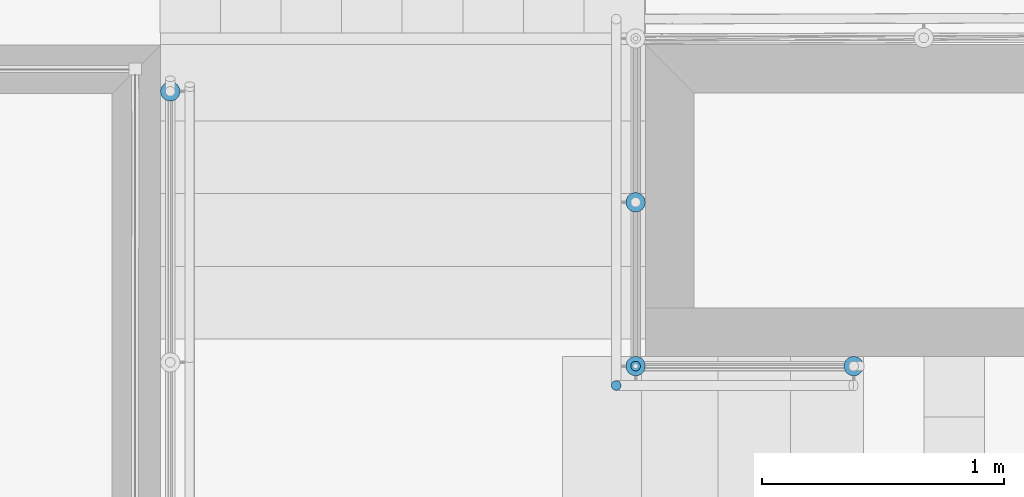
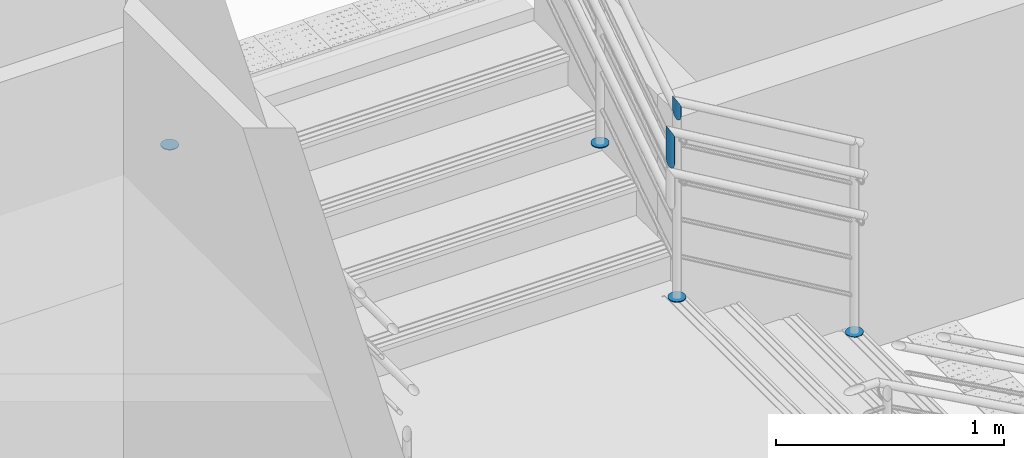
# One storey, part 124 of 237: 6 building element parts, 2 elements without a shape of their own.
"""IFC2X3 building model written with IfcOpenShell, lengths in millimetres."""

from ifc_helpers import new_model, entity, si_unit, converted_unit, derived_unit, money_unit, direction, frame, origin_with_axes, place, context, subcontext, project, spatial, faceted_brep, material, type_object, element, aggregate, save


model = new_model("IFC2X3")

# Units and contexts
model_context = context("Model", 3, precision=0.01, world=origin_with_axes(), true_north=direction((0.0, 1.0)))
body_context = subcontext(model_context, "Body", "Model", "MODEL_VIEW")
ifc_project = project(units=[si_unit("LENGTHUNIT", "METRE", prefix="MILLI"), si_unit("AREAUNIT", "SQUARE_METRE"), si_unit("VOLUMEUNIT", "CUBIC_METRE"), converted_unit("PLANEANGLEUNIT", "DEGREE", entity("IfcPlaneAngleMeasure", 0.0174532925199), si_unit("PLANEANGLEUNIT", "RADIAN"), dimensions=[0, 0, 0, 0, 0, 0, 0]), money_unit("USD"), converted_unit("TIMEUNIT", "Year", entity("IfcTimeMeasure", 31556926.0), si_unit("TIMEUNIT", "SECOND"), dimensions=[0, 0, 1, 0, 0, 0, 0]), si_unit("MASSUNIT", "GRAM", prefix="KILO"), si_unit("THERMODYNAMICTEMPERATUREUNIT", "DEGREE_CELSIUS"), si_unit("LUMINOUSINTENSITYUNIT", "LUMEN"), si_unit("ENERGYUNIT", "JOULE", prefix="MEGA"), derived_unit("THERMALCONDUCTANCEUNIT", [(si_unit("POWERUNIT", "WATT"), 1), (si_unit("LENGTHUNIT", "METRE"), -1), (si_unit("THERMODYNAMICTEMPERATUREUNIT", "KELVIN"), -1)]), derived_unit("SPECIFICHEATCAPACITYUNIT", [(si_unit("ENERGYUNIT", "JOULE"), 1), (si_unit("MASSUNIT", "GRAM", prefix="KILO"), -1), (si_unit("THERMODYNAMICTEMPERATUREUNIT", "KELVIN"), -1)]), derived_unit("MASSDENSITYUNIT", [(si_unit("MASSUNIT", "GRAM", prefix="KILO"), 1), (si_unit("VOLUMEUNIT", "CUBIC_METRE"), -1)])], contexts=[model_context])

# Site, building, storey
site_placement = place(None, origin_with_axes())
site = spatial("IfcSite", under=ifc_project, at=site_placement, Name="Local", CompositionType="ELEMENT")
building_placement = place(site_placement, origin_with_axes())
building = spatial("IfcBuilding", under=site, at=building_placement, Name="Construção", CompositionType="ELEMENT")
storey_placement = place(building_placement, origin_with_axes())
storey = spatial("IfcBuildingStorey", under=building, at=storey_placement, Name="Pavimento Térreo", CompositionType="ELEMENT", Elevation=0.0)

# Railing, building element part
railing_type = type_object("IfcRailingType", Name="Tipo de Guarda-Corpo", PredefinedType="NOTDEFINED")
railing_1_placement = place(storey_placement, frame((77071.0413397, 23732.4143775, -4865.39060156), z_axis=(0.0, 0.0, 1.0), x_axis=(1.0, 0.0, 0.0)))
railing_1 = element("IfcRailing", 1, at=railing_1_placement, inside=storey, type_object=railing_type, Name="Guarda-Corpo - 001", PredefinedType="NOTDEFINED")
ifc_material_1 = material(Name="Alumínio")
building_element_part_1_placement = place(railing_1_placement, origin_with_axes())
building_element_part_1 = element("IfcBuildingElementPart", 2, at=building_element_part_1_placement, material=ifc_material_1, Name="Alumínio", context=body_context, shape_type="Brep", body=[
    faceted_brep([(1737.91815812, -306.638304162, 1326.15703693), (1744.86408523, -306.030614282, 1326.15703693), (1744.86408523, -306.030614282, 1331.15703693), (1737.91815812, -306.638304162, 1331.15703693), (1730.97223102, -306.030614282, 1326.15703693), (1724.23735239, -304.226008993, 1326.15703693), (1717.91815812, -301.279320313, 1326.15703693), (1712.20665374, -297.280081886, 1326.15703693), (1707.2763804, -292.349808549, 1326.15703693), (1703.27714197, -286.638304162, 1326.15703693), (1700.33045329, -280.319109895, 1326.15703693), (1698.525848, -273.584231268, 1326.15703693), (1697.91815812, -266.638304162, 1326.15703693), (1698.525848, -259.692377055, 1326.15703693), (1700.33045329, -252.957498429, 1326.15703693), (1703.27714197, -246.638304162, 1326.15703693), (1707.2763804, -240.926799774, 1326.15703693), (1712.20665374, -235.996526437, 1326.15703693), (1717.91815812, -231.99728801, 1326.15703693), (1724.23735239, -229.05059933, 1326.15703693), (1730.97223102, -227.245994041, 1326.15703693), (1737.91815812, -226.638304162, 1326.15703693), (1744.86408523, -227.245994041, 1326.15703693), (1751.59896386, -229.05059933, 1326.15703693), (1757.91815812, -231.99728801, 1326.15703693), (1763.62966251, -235.996526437, 1326.15703693), (1768.55993585, -240.926799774, 1326.15703693), (1772.55917428, -246.638304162, 1326.15703693), (1775.50586296, -252.957498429, 1326.15703693), (1777.31046825, -259.692377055, 1326.15703693), (1777.91815812, -266.638304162, 1326.15703693), (1777.31046825, -273.584231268, 1326.15703693), (1775.50586296, -280.319109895, 1326.15703693), (1772.55917428, -286.638304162, 1326.15703693), (1768.55993585, -292.349808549, 1326.15703693), (1763.62966251, -297.280081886, 1326.15703693), (1757.91815812, -301.279320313, 1326.15703693), (1751.59896386, -304.226008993, 1326.15703693), (1751.59896386, -304.226008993, 1331.15703693), (1757.91815812, -301.279320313, 1331.15703693), (1763.62966251, -297.280081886, 1331.15703693), (1768.55993585, -292.349808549, 1331.15703693), (1772.55917428, -286.638304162, 1331.15703693), (1775.50586296, -280.319109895, 1331.15703693), (1777.31046825, -273.584231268, 1331.15703693), (1777.91815812, -266.638304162, 1331.15703693), (1777.31046825, -259.692377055, 1331.15703693), (1775.50586296, -252.957498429, 1331.15703693), (1772.55917428, -246.638304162, 1331.15703693), (1768.55993585, -240.926799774, 1331.15703693), (1763.62966251, -235.996526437, 1331.15703693), (1757.91815812, -231.99728801, 1331.15703693), (1751.59896386, -229.05059933, 1331.15703693), (1744.86408523, -227.245994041, 1331.15703693), (1737.91815812, -226.638304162, 1331.15703693), (1730.97223102, -227.245994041, 1331.15703693), (1724.23735239, -229.05059933, 1331.15703693), (1717.91815812, -231.99728801, 1331.15703693), (1712.20665374, -235.996526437, 1331.15703693), (1707.2763804, -240.926799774, 1331.15703693), (1703.27714197, -246.638304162, 1331.15703693), (1700.33045329, -252.957498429, 1331.15703693), (1698.525848, -259.692377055, 1331.15703693), (1697.91815812, -266.638304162, 1331.15703693), (1698.525848, -273.584231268, 1331.15703693), (1700.33045329, -280.319109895, 1331.15703693), (1703.27714197, -286.638304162, 1331.15703693), (1707.2763804, -292.349808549, 1331.15703693), (1712.20665374, -297.280081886, 1331.15703693), (1717.91815812, -301.279320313, 1331.15703693), (1724.23735239, -304.226008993, 1331.15703693), (1730.97223102, -306.030614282, 1331.15703693)], [[[0, 1, 2, 3]], [[0, 4, 5, 6, 7, 8, 9, 10, 11, 12, 13, 14, 15, 16, 17, 18, 19, 20, 21, 22, 23, 24, 25, 26, 27, 28, 29, 30, 31, 32, 33, 34, 35, 36, 37, 1]], [[1, 37, 38, 2]], [[3, 2, 38, 39, 40, 41, 42, 43, 44, 45, 46, 47, 48, 49, 50, 51, 52, 53, 54, 55, 56, 57, 58, 59, 60, 61, 62, 63, 64, 65, 66, 67, 68, 69, 70, 71]], [[4, 0, 3, 71]], [[5, 4, 71, 70]], [[6, 5, 70, 69]], [[7, 6, 69, 68]], [[8, 7, 68, 67]], [[9, 8, 67, 66]], [[10, 9, 66, 65]], [[11, 10, 65, 64]], [[12, 11, 64, 63]], [[13, 12, 63, 62]], [[14, 13, 62, 61]], [[15, 14, 61, 60]], [[16, 15, 60, 59]], [[17, 16, 59, 58]], [[18, 17, 58, 57]], [[19, 18, 57, 56]], [[20, 19, 56, 55]], [[21, 20, 55, 54]], [[22, 21, 54, 53]], [[23, 22, 53, 52]], [[24, 23, 52, 51]], [[25, 24, 51, 50]], [[26, 25, 50, 49]], [[27, 26, 49, 48]], [[28, 27, 48, 47]], [[29, 28, 47, 46]], [[30, 29, 46, 45]], [[31, 30, 45, 44]], [[32, 31, 44, 43]], [[33, 32, 43, 42]], [[34, 33, 42, 41]], [[35, 34, 41, 40]], [[36, 35, 40, 39]], [[37, 36, 39, 38]]]),
])
aggregate(railing_1, [building_element_part_1])

# Railing, building element parts
railing_2_placement = place(storey_placement, frame((84562.8908804, 21657.2175927, -4868.39227091), z_axis=(0.0, 0.0, 1.0), x_axis=(1.0, 0.0, 0.0)))
railing_2 = element("IfcRailing", 3, at=railing_2_placement, inside=storey, type_object=railing_type, Name="Guarda-Corpo - 002", PredefinedType="NOTDEFINED")
building_element_part_2_placement = place(railing_2_placement, origin_with_axes())
building_element_part_2 = element("IfcBuildingElementPart", 4, at=building_element_part_2_placement, material=ifc_material_1, Name="Alumínio", context=body_context, shape_type="Brep", body=[
    faceted_brep([(-2973.93138467, 675.201517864, 23.46674086), (-2973.32369479, 668.255590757, 23.46674086), (-2973.32369479, 668.255590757, 28.46674086), (-2973.93138467, 675.201517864, 28.46674086), (-2973.32369479, 682.147444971, 23.46674086), (-2971.5190895, 688.882323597, 23.46674086), (-2968.57240082, 695.201517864, 23.46674086), (-2964.5731624, 700.913022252, 23.46674086), (-2959.64288906, 705.843295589, 23.46674086), (-2953.93138467, 709.842534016, 23.46674086), (-2947.6121904, 712.789222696, 23.46674086), (-2940.87731178, 714.593827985, 23.46674086), (-2933.93138467, 715.201517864, 23.46674086), (-2926.98545757, 714.593827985, 23.46674086), (-2920.25057894, 712.789222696, 23.46674086), (-2913.93138467, 709.842534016, 23.46674086), (-2908.21988028, 705.843295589, 23.46674086), (-2903.28960695, 700.913022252, 23.46674086), (-2899.29036852, 695.201517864, 23.46674086), (-2896.34367984, 688.882323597, 23.46674086), (-2894.53907455, 682.147444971, 23.46674086), (-2893.93138467, 675.201517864, 23.46674086), (-2894.53907455, 668.255590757, 23.46674086), (-2896.34367984, 661.520712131, 23.46674086), (-2899.29036852, 655.201517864, 23.46674086), (-2903.28960695, 649.490013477, 23.46674086), (-2908.21988028, 644.559740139, 23.46674086), (-2913.93138467, 640.560501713, 23.46674086), (-2920.25057894, 637.613813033, 23.46674086), (-2926.98545757, 635.809207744, 23.46674086), (-2933.93138467, 635.201517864, 23.46674086), (-2940.87731178, 635.809207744, 23.46674086), (-2947.6121904, 637.613813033, 23.46674086), (-2953.93138467, 640.560501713, 23.46674086), (-2959.64288906, 644.559740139, 23.46674086), (-2964.5731624, 649.490013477, 23.46674086), (-2968.57240082, 655.201517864, 23.46674086), (-2971.5190895, 661.520712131, 23.46674086), (-2971.5190895, 661.520712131, 28.46674086), (-2968.57240082, 655.201517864, 28.46674086), (-2964.5731624, 649.490013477, 28.46674086), (-2959.64288906, 644.559740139, 28.46674086), (-2953.93138467, 640.560501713, 28.46674086), (-2947.6121904, 637.613813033, 28.46674086), (-2940.87731178, 635.809207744, 28.46674086), (-2933.93138467, 635.201517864, 28.46674086), (-2926.98545757, 635.809207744, 28.46674086), (-2920.25057894, 637.613813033, 28.46674086), (-2913.93138467, 640.560501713, 28.46674086), (-2908.21988028, 644.559740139, 28.46674086), (-2903.28960695, 649.490013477, 28.46674086), (-2899.29036852, 655.201517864, 28.46674086), (-2896.34367984, 661.520712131, 28.46674086), (-2894.53907455, 668.255590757, 28.46674086), (-2893.93138467, 675.201517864, 28.46674086), (-2894.53907455, 682.147444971, 28.46674086), (-2896.34367984, 688.882323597, 28.46674086), (-2899.29036852, 695.201517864, 28.46674086), (-2903.28960695, 700.913022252, 28.46674086), (-2908.21988028, 705.843295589, 28.46674086), (-2913.93138467, 709.842534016, 28.46674086), (-2920.25057894, 712.789222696, 28.46674086), (-2926.98545757, 714.593827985, 28.46674086), (-2933.93138467, 715.201517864, 28.46674086), (-2940.87731178, 714.593827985, 28.46674086), (-2947.6121904, 712.789222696, 28.46674086), (-2953.93138467, 709.842534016, 28.46674086), (-2959.64288906, 705.843295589, 28.46674086), (-2964.5731624, 700.913022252, 28.46674086), (-2968.57240082, 695.201517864, 28.46674086), (-2971.5190895, 688.882323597, 28.46674086), (-2973.32369479, 682.147444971, 28.46674086)], [[[0, 1, 2, 3]], [[0, 4, 5, 6, 7, 8, 9, 10, 11, 12, 13, 14, 15, 16, 17, 18, 19, 20, 21, 22, 23, 24, 25, 26, 27, 28, 29, 30, 31, 32, 33, 34, 35, 36, 37, 1]], [[1, 37, 38, 2]], [[3, 2, 38, 39, 40, 41, 42, 43, 44, 45, 46, 47, 48, 49, 50, 51, 52, 53, 54, 55, 56, 57, 58, 59, 60, 61, 62, 63, 64, 65, 66, 67, 68, 69, 70, 71]], [[4, 0, 3, 71]], [[5, 4, 71, 70]], [[6, 5, 70, 69]], [[7, 6, 69, 68]], [[8, 7, 68, 67]], [[9, 8, 67, 66]], [[10, 9, 66, 65]], [[11, 10, 65, 64]], [[12, 11, 64, 63]], [[13, 12, 63, 62]], [[14, 13, 62, 61]], [[15, 14, 61, 60]], [[16, 15, 60, 59]], [[17, 16, 59, 58]], [[18, 17, 58, 57]], [[19, 18, 57, 56]], [[20, 19, 56, 55]], [[21, 20, 55, 54]], [[22, 21, 54, 53]], [[23, 22, 53, 52]], [[24, 23, 52, 51]], [[25, 24, 51, 50]], [[26, 25, 50, 49]], [[27, 26, 49, 48]], [[28, 27, 48, 47]], [[29, 28, 47, 46]], [[30, 29, 46, 45]], [[31, 30, 45, 44]], [[32, 31, 44, 43]], [[33, 32, 43, 42]], [[34, 33, 42, 41]], [[35, 34, 41, 40]], [[36, 35, 40, 39]], [[37, 36, 39, 38]]]),
])
building_element_part_3_placement = place(railing_2_placement, origin_with_axes())
building_element_part_3 = element("IfcBuildingElementPart", 5, at=building_element_part_3_placement, material=ifc_material_1, Name="Alumínio", context=body_context, shape_type="Brep", body=[
    faceted_brep([(-3873.93138467, 675.201671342, 526.629885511), (-3873.32369479, 668.255744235, 526.629885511), (-3873.32369479, 668.255744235, 531.629885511), (-3873.93138467, 675.201671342, 531.629885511), (-3873.32369479, 682.147598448, 526.629885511), (-3871.5190895, 688.882477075, 526.629885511), (-3868.57240082, 695.201671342, 526.629885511), (-3864.5731624, 700.913175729, 526.629885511), (-3859.64288906, 705.843449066, 526.629885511), (-3853.93138467, 709.842687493, 526.629885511), (-3847.6121904, 712.789376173, 526.629885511), (-3840.87731178, 714.593981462, 526.629885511), (-3833.93138467, 715.201671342, 526.629885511), (-3826.98545757, 714.593981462, 526.629885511), (-3820.25057894, 712.789376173, 526.629885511), (-3813.93138467, 709.842687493, 526.629885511), (-3808.21988028, 705.843449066, 526.629885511), (-3803.28960695, 700.913175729, 526.629885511), (-3799.29036852, 695.201671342, 526.629885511), (-3796.34367984, 688.882477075, 526.629885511), (-3794.53907455, 682.147598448, 526.629885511), (-3793.93138467, 675.201671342, 526.629885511), (-3794.53907455, 668.255744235, 526.629885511), (-3796.34367984, 661.520865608, 526.629885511), (-3799.29036852, 655.201671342, 526.629885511), (-3803.28960695, 649.490166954, 526.629885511), (-3808.21988028, 644.559893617, 526.629885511), (-3813.93138467, 640.56065519, 526.629885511), (-3820.25057894, 637.61396651, 526.629885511), (-3826.98545757, 635.809361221, 526.629885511), (-3833.93138467, 635.201671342, 526.629885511), (-3840.87731178, 635.809361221, 526.629885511), (-3847.6121904, 637.61396651, 526.629885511), (-3853.93138467, 640.56065519, 526.629885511), (-3859.64288906, 644.559893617, 526.629885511), (-3864.5731624, 649.490166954, 526.629885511), (-3868.57240082, 655.201671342, 526.629885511), (-3871.5190895, 661.520865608, 526.629885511), (-3871.5190895, 661.520865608, 531.629885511), (-3868.57240082, 655.201671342, 531.629885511), (-3864.5731624, 649.490166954, 531.629885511), (-3859.64288906, 644.559893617, 531.629885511), (-3853.93138467, 640.56065519, 531.629885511), (-3847.6121904, 637.61396651, 531.629885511), (-3840.87731178, 635.809361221, 531.629885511), (-3833.93138467, 635.201671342, 531.629885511), (-3826.98545757, 635.809361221, 531.629885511), (-3820.25057894, 637.61396651, 531.629885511), (-3813.93138467, 640.56065519, 531.629885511), (-3808.21988028, 644.559893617, 531.629885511), (-3803.28960695, 649.490166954, 531.629885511), (-3799.29036852, 655.201671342, 531.629885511), (-3796.34367984, 661.520865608, 531.629885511), (-3794.53907455, 668.255744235, 531.629885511), (-3793.93138467, 675.201671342, 531.629885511), (-3794.53907455, 682.147598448, 531.629885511), (-3796.34367984, 688.882477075, 531.629885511), (-3799.29036852, 695.201671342, 531.629885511), (-3803.28960695, 700.913175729, 531.629885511), (-3808.21988028, 705.843449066, 531.629885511), (-3813.93138467, 709.842687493, 531.629885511), (-3820.25057894, 712.789376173, 531.629885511), (-3826.98545757, 714.593981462, 531.629885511), (-3833.93138467, 715.201671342, 531.629885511), (-3840.87731178, 714.593981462, 531.629885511), (-3847.6121904, 712.789376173, 531.629885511), (-3853.93138467, 709.842687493, 531.629885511), (-3859.64288906, 705.843449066, 531.629885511), (-3864.5731624, 700.913175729, 531.629885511), (-3868.57240082, 695.201671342, 531.629885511), (-3871.5190895, 688.882477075, 531.629885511), (-3873.32369479, 682.147598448, 531.629885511)], [[[0, 1, 2, 3]], [[0, 4, 5, 6, 7, 8, 9, 10, 11, 12, 13, 14, 15, 16, 17, 18, 19, 20, 21, 22, 23, 24, 25, 26, 27, 28, 29, 30, 31, 32, 33, 34, 35, 36, 37, 1]], [[1, 37, 38, 2]], [[3, 2, 38, 39, 40, 41, 42, 43, 44, 45, 46, 47, 48, 49, 50, 51, 52, 53, 54, 55, 56, 57, 58, 59, 60, 61, 62, 63, 64, 65, 66, 67, 68, 69, 70, 71]], [[4, 0, 3, 71]], [[5, 4, 71, 70]], [[6, 5, 70, 69]], [[7, 6, 69, 68]], [[8, 7, 68, 67]], [[9, 8, 67, 66]], [[10, 9, 66, 65]], [[11, 10, 65, 64]], [[12, 11, 64, 63]], [[13, 12, 63, 62]], [[14, 13, 62, 61]], [[15, 14, 61, 60]], [[16, 15, 60, 59]], [[17, 16, 59, 58]], [[18, 17, 58, 57]], [[19, 18, 57, 56]], [[20, 19, 56, 55]], [[21, 20, 55, 54]], [[22, 21, 54, 53]], [[23, 22, 53, 52]], [[24, 23, 52, 51]], [[25, 24, 51, 50]], [[26, 25, 50, 49]], [[27, 26, 49, 48]], [[28, 27, 48, 47]], [[29, 28, 47, 46]], [[30, 29, 46, 45]], [[31, 30, 45, 44]], [[32, 31, 44, 43]], [[33, 32, 43, 42]], [[34, 33, 42, 41]], [[35, 34, 41, 40]], [[36, 35, 40, 39]], [[37, 36, 39, 38]]]),
])
ifc_material_2 = material(Name="Aço - Inoxidável")
building_element_part_4_placement = place(railing_2_placement, origin_with_axes())
building_element_part_4 = element("IfcBuildingElementPart", 6, at=building_element_part_4_placement, material=ifc_material_2, Name="Aço - Inoxidável", context=body_context, shape_type="Brep", body=[
    faceted_brep([(-3910.45830725, 614.898168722, 1381.91366874), (-3913.93126905, 615.202048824, 1382.476101), (-3913.93126905, 615.201402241, 1495.21413694), (-3910.45830725, 614.897537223, 1489.15014715), (-3917.40423436, 614.898244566, 1381.91380912), (-3907.09087316, 613.995837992, 1380.24360246), (-3903.93128454, 612.522474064, 1377.51664732), (-3901.07554391, 610.522844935, 1373.81566155), (-3898.61042149, 608.057708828, 1369.25309866), (-3896.61081879, 605.201968, 1363.96759045), (-3895.13749271, 602.042392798, 1358.11973462), (-3894.23520954, 598.674985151, 1351.887215), (-3893.93138467, 595.202061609, 1345.45940275), (-3894.23524969, 591.729144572, 1339.03160254), (-3895.1375718, 588.361756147, 1332.7991185), (-3896.61093441, 585.202212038, 1326.95132021), (-3898.61057013, 582.346512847, 1321.66588907), (-3901.07572105, 579.881427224, 1317.10341962), (-3903.93148481, 577.881855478, 1313.40254006), (-3907.09109046, 576.408553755, 1310.67570005), (-3910.45853499, 575.506287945, 1309.00575392), (-3913.9315003, 575.202473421, 1308.44344303), (-3917.40446209, 575.506341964, 1309.0058539), (-3920.77189619, 576.408661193, 1310.6758989), (-3923.9314848, 577.882015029, 1313.40283536), (-3926.78722544, 579.881636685, 1317.1038073), (-3929.25234786, 582.346768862, 1321.66636291), (-3931.25195056, 585.202509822, 1326.95187136), (-3932.72527663, 588.362089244, 1332.799735), (-3933.62755981, 591.729504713, 1339.03226911), (-3933.93138467, 595.202438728, 1345.46010074), (-3933.62751965, 598.675367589, 1351.88792283), (-3932.72519754, 602.042767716, 1358.12042853), (-3931.25183494, 605.202321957, 1363.96824557), (-3929.25219921, 608.058028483, 1369.25369029), (-3926.78704829, 610.523117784, 1373.81616654), (-3923.93128454, 612.522689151, 1377.51704541), (-3920.77167889, 613.995986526, 1380.24387737), (-3917.40423436, 614.897577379, 1501.27812673), (-3923.93148481, 577.880951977, 1512.67469965), (-3920.77189619, 576.407589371, 1507.15786526), (-3917.40446209, 575.505267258, 1501.27812673), (-3913.9315003, 575.201402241, 1495.21413694), (-3910.45853499, 575.505227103, 1489.15014715), (-3907.09109046, 576.40751028, 1483.27040862), (-3903.93148481, 577.880836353, 1477.75357423), (-3901.07572105, 579.880439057, 1472.7672702), (-3898.61057013, 582.345561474, 1468.46300286), (-3896.61093441, 585.201302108, 1464.97155519), (-3895.13757181, 588.360890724, 1462.39901307), (-3894.23524969, 591.728324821, 1460.82354188), (-3893.93138468, 595.201286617, 1460.29301152), (-3894.23520954, 598.674251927, 1460.82354188), (-3895.13749271, 602.041696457, 1462.39901307), (-3896.61081879, 605.201302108, 1464.97155519), (-3898.61042149, 608.057065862, 1468.46300286), (-3901.07554391, 610.522216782, 1472.7672702), (-3903.93128454, 612.521852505, 1477.75357423), (-3907.09087316, 613.995215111, 1483.27040862), (-3920.77167889, 613.995294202, 1507.15786526), (-3923.93128454, 612.521968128, 1512.67469965), (-3926.78704829, 610.522365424, 1517.66100368), (-3929.25219921, 608.057243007, 1521.96527102), (-3931.25183494, 605.201502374, 1525.45671868), (-3932.72519754, 602.041913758, 1528.02926081), (-3933.62751965, 598.674479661, 1529.604732), (-3933.93138467, 595.201517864, 1530.13526236), (-3933.62755981, 591.728552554, 1529.604732), (-3932.72527663, 588.361108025, 1528.02926081), (-3931.25195056, 585.201502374, 1525.45671868), (-3929.25234786, 582.34573862, 1521.96527102), (-3926.78722544, 579.8805877, 1517.66100368)], [[[0, 1, 2, 3]], [[4, 1, 0, 5, 6, 7, 8, 9, 10, 11, 12, 13, 14, 15, 16, 17, 18, 19, 20, 21, 22, 23, 24, 25, 26, 27, 28, 29, 30, 31, 32, 33, 34, 35, 36, 37]], [[1, 4, 38, 2]], [[39, 40, 41, 42, 43, 44, 45, 46, 47, 48, 49, 50, 51, 52, 53, 54, 55, 56, 57, 58, 3, 2, 38, 59, 60, 61, 62, 63, 64, 65, 66, 67, 68, 69, 70, 71]], [[5, 0, 3, 58]], [[6, 5, 58, 57]], [[7, 6, 57, 56]], [[8, 7, 56, 55]], [[9, 8, 55, 54]], [[10, 9, 54, 53]], [[11, 10, 53, 52]], [[12, 11, 52, 51]], [[13, 12, 51, 50]], [[14, 13, 50, 49]], [[15, 14, 49, 48]], [[16, 15, 48, 47]], [[17, 16, 47, 46]], [[18, 17, 46, 45]], [[19, 18, 45, 44]], [[20, 19, 44, 43]], [[21, 20, 43, 42]], [[22, 21, 42, 41]], [[23, 22, 41, 40]], [[24, 23, 40, 39]], [[25, 24, 39, 71]], [[26, 25, 71, 70]], [[27, 26, 70, 69]], [[28, 27, 69, 68]], [[29, 28, 68, 67]], [[30, 29, 67, 66]], [[31, 30, 66, 65]], [[32, 31, 65, 64]], [[33, 32, 64, 63]], [[34, 33, 63, 62]], [[35, 34, 62, 61]], [[36, 35, 61, 60]], [[37, 36, 60, 59]], [[4, 37, 59, 38]]]),
])
building_element_part_5_placement = place(railing_2_placement, origin_with_axes())
building_element_part_5 = element("IfcBuildingElementPart", 7, at=building_element_part_5_placement, material=ifc_material_2, Name="Aço - Inoxidável", context=body_context, shape_type="Brep", body=[
    faceted_brep([(-3830.45833897, 694.897612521, 1564.33392983), (-3833.93130125, 695.201495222, 1564.89636597), (-3833.93130125, 695.201434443, 1578.28065522), (-3830.45833897, 694.897575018, 1572.21666543), (-3837.40426607, 694.8976909, 1564.3340749), (-3827.09090342, 693.99527665, 1562.66385681), (-3823.93131243, 692.521905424, 1559.93689269), (-3821.96898751, 691.14785391, 1557.39375277), (-3818.4501646, 687.828220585, 1551.24966579), (-3816.61083489, 685.201371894, 1546.38780749), (-3815.13750373, 682.041788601, 1540.53994639), (-3814.23521513, 678.674374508, 1534.30742518), (-3813.93138467, 675.201446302, 1527.87961498), (-3814.2352441, 671.728526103, 1521.45181959), (-3815.13756079, 668.361135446, 1515.21934176), (-3816.61091831, 665.201589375, 1509.37154955), (-3818.61054943, 662.345887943, 1504.08612304), (-3821.07569638, 659.880799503, 1499.52365595), (-3823.93145692, 657.88122435, 1495.82277623), (-3827.0910602, 656.407918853, 1493.09593376), (-3830.45850327, 655.505649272, 1491.42598342), (-3833.93146809, 655.201831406, 1490.86366728), (-3837.40443038, 655.505697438, 1491.42607257), (-3840.77186593, 656.408015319, 1493.0961123), (-3843.93145692, 657.881369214, 1495.82304435), (-3846.78720077, 659.880992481, 1499.52401312), (-3849.25232716, 662.34612787, 1504.0865671), (-3851.25193446, 665.201873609, 1509.37207562), (-3852.72526562, 668.361459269, 1515.2199411), (-3853.62755422, 671.728882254, 1521.45247876), (-3853.93138467, 675.201824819, 1527.88031555), (-3853.62752525, 678.674762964, 1534.30814415), (-3852.72520856, 682.042172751, 1540.54065739), (-3851.25185104, 685.201736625, 1546.38848254), (-3849.25221991, 688.057452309, 1551.67393543), (-3846.78707296, 690.52254982, 1556.23641931), (-3843.93131243, 692.522127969, 1559.93730458), (-3840.77170915, 693.995430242, 1562.66414108), (-3837.40426607, 694.897603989, 1584.34464501), (-3823.93131243, 692.521900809, 1560.82009251), (-3827.09090342, 693.995258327, 1566.3369269), (-3840.77170915, 693.995315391, 1590.22438354), (-3843.93131243, 692.521984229, 1595.74121793), (-3846.78707296, 690.522376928, 1600.72752196), (-3849.25221991, 688.057250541, 1605.0317893), (-3851.25185104, 685.201506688, 1608.52323696), (-3852.72520856, 682.0419157, 1611.09577909), (-3853.62752525, 678.67448015, 1612.67125028), (-3853.93138467, 675.201517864, 1613.20178064), (-3853.62755422, 671.728553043, 1612.67125028), (-3852.72526562, 668.361109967, 1611.09577909), (-3851.25193446, 665.201506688, 1608.52323696), (-3849.25232716, 662.345746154, 1605.0317893), (-3846.78720077, 659.880599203, 1600.72752196), (-3843.93145692, 657.880968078, 1595.74121793), (-3840.77186593, 656.407610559, 1590.22438354), (-3837.40443038, 655.505293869, 1584.34464501), (-3833.93146809, 655.201434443, 1578.28065522), (-3830.45850327, 655.505264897, 1572.21666543), (-3827.0910602, 656.407553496, 1566.3369269), (-3823.93145692, 657.880884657, 1560.82009251), (-3821.07569638, 659.880491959, 1555.83378848), (-3818.61054943, 662.345618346, 1551.52952114), (-3816.61091831, 665.201362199, 1548.03807347), (-3815.13756079, 668.360953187, 1545.46553135), (-3814.2352441, 671.728388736, 1543.89006016), (-3813.93138467, 675.201351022, 1543.3595298), (-3814.23521513, 678.674315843, 1543.89006016), (-3815.13750373, 682.04175892, 1545.46553135), (-3816.61083489, 685.201362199, 1548.03807347)], [[[0, 1, 2, 3]], [[4, 1, 0, 5, 6, 7, 8, 9, 10, 11, 12, 13, 14, 15, 16, 17, 18, 19, 20, 21, 22, 23, 24, 25, 26, 27, 28, 29, 30, 31, 32, 33, 34, 35, 36, 37]], [[1, 4, 38, 2]], [[8, 7, 39, 40, 3, 2, 38, 41, 42, 43, 44, 45, 46, 47, 48, 49, 50, 51, 52, 53, 54, 55, 56, 57, 58, 59, 60, 61, 62, 63, 64, 65, 66, 67, 68, 69]], [[5, 0, 3, 40]], [[6, 5, 40, 39]], [[7, 6, 39]], [[9, 8, 69]], [[10, 9, 69, 68]], [[11, 10, 68, 67]], [[12, 11, 67, 66]], [[13, 12, 66, 65]], [[14, 13, 65, 64]], [[15, 14, 64, 63]], [[16, 15, 63, 62]], [[17, 16, 62, 61]], [[18, 17, 61, 60]], [[19, 18, 60, 59]], [[20, 19, 59, 58]], [[21, 20, 58, 57]], [[22, 21, 57, 56]], [[23, 22, 56, 55]], [[24, 23, 55, 54]], [[25, 24, 54, 53]], [[26, 25, 53, 52]], [[27, 26, 52, 51]], [[28, 27, 51, 50]], [[29, 28, 50, 49]], [[30, 29, 49, 48]], [[31, 30, 48, 47]], [[32, 31, 47, 46]], [[33, 32, 46, 45]], [[34, 33, 45, 44]], [[35, 34, 44, 43]], [[36, 35, 43, 42]], [[37, 36, 42, 41]], [[4, 37, 41, 38]]]),
])
building_element_part_6_placement = place(railing_2_placement, origin_with_axes())
building_element_part_6 = element("IfcBuildingElementPart", 8, at=building_element_part_6_placement, material=ifc_material_1, Name="Alumínio", context=body_context, shape_type="Brep", body=[
    faceted_brep([(-3833.93138467, 1391.03531661, 944.63986772), (-3840.87731178, 1390.42762673, 944.63986772), (-3840.87731178, 1390.42762673, 949.63986772), (-3833.93138467, 1391.03531661, 949.63986772), (-3826.98545757, 1390.42762673, 944.63986772), (-3820.25057894, 1388.62302144, 944.63986772), (-3813.93138467, 1385.67633276, 944.63986772), (-3808.21988028, 1381.67709434, 944.63986772), (-3803.28960695, 1376.746821, 944.63986772), (-3799.29036852, 1371.03531661, 944.63986772), (-3796.34367984, 1364.71612235, 944.63986772), (-3794.53907455, 1357.98124372, 944.63986772), (-3793.93138467, 1351.03531661, 944.63986772), (-3794.53907455, 1344.08938951, 944.63986772), (-3796.34367984, 1337.35451088, 944.63986772), (-3799.29036852, 1331.03531661, 944.63986772), (-3803.28960695, 1325.32381223, 944.63986772), (-3808.21988028, 1320.39353889, 944.63986772), (-3813.93138467, 1316.39430046, 944.63986772), (-3820.25057894, 1313.44761178, 944.63986772), (-3826.98545757, 1311.64300649, 944.63986772), (-3833.93138467, 1311.03531661, 944.63986772), (-3840.87731178, 1311.64300649, 944.63986772), (-3847.6121904, 1313.44761178, 944.63986772), (-3853.93138467, 1316.39430046, 944.63986772), (-3859.64288906, 1320.39353889, 944.63986772), (-3864.5731624, 1325.32381223, 944.63986772), (-3868.57240082, 1331.03531661, 944.63986772), (-3871.5190895, 1337.35451088, 944.63986772), (-3873.32369479, 1344.08938951, 944.63986772), (-3873.93138467, 1351.03531661, 944.63986772), (-3873.32369479, 1357.98124372, 944.63986772), (-3871.5190895, 1364.71612235, 944.63986772), (-3868.57240082, 1371.03531661, 944.63986772), (-3864.5731624, 1376.746821, 944.63986772), (-3859.64288906, 1381.67709434, 944.63986772), (-3853.93138467, 1385.67633276, 944.63986772), (-3847.6121904, 1388.62302144, 944.63986772), (-3847.6121904, 1388.62302144, 949.63986772), (-3853.93138467, 1385.67633276, 949.63986772), (-3859.64288906, 1381.67709434, 949.63986772), (-3864.5731624, 1376.746821, 949.63986772), (-3868.57240082, 1371.03531661, 949.63986772), (-3871.5190895, 1364.71612235, 949.63986772), (-3873.32369479, 1357.98124372, 949.63986772), (-3873.93138467, 1351.03531661, 949.63986772), (-3873.32369479, 1344.08938951, 949.63986772), (-3871.5190895, 1337.35451088, 949.63986772), (-3868.57240082, 1331.03531661, 949.63986772), (-3864.5731624, 1325.32381223, 949.63986772), (-3859.64288906, 1320.39353889, 949.63986772), (-3853.93138467, 1316.39430046, 949.63986772), (-3847.6121904, 1313.44761178, 949.63986772), (-3840.87731178, 1311.64300649, 949.63986772), (-3833.93138467, 1311.03531661, 949.63986772), (-3826.98545757, 1311.64300649, 949.63986772), (-3820.25057894, 1313.44761178, 949.63986772), (-3813.93138467, 1316.39430046, 949.63986772), (-3808.21988028, 1320.39353889, 949.63986772), (-3803.28960695, 1325.32381223, 949.63986772), (-3799.29036852, 1331.03531661, 949.63986772), (-3796.34367984, 1337.35451088, 949.63986772), (-3794.53907455, 1344.08938951, 949.63986772), (-3793.93138467, 1351.03531661, 949.63986772), (-3794.53907455, 1357.98124372, 949.63986772), (-3796.34367984, 1364.71612235, 949.63986772), (-3799.29036852, 1371.03531661, 949.63986772), (-3803.28960695, 1376.746821, 949.63986772), (-3808.21988028, 1381.67709434, 949.63986772), (-3813.93138467, 1385.67633276, 949.63986772), (-3820.25057894, 1388.62302144, 949.63986772), (-3826.98545757, 1390.42762673, 949.63986772)], [[[0, 1, 2, 3]], [[0, 4, 5, 6, 7, 8, 9, 10, 11, 12, 13, 14, 15, 16, 17, 18, 19, 20, 21, 22, 23, 24, 25, 26, 27, 28, 29, 30, 31, 32, 33, 34, 35, 36, 37, 1]], [[1, 37, 38, 2]], [[3, 2, 38, 39, 40, 41, 42, 43, 44, 45, 46, 47, 48, 49, 50, 51, 52, 53, 54, 55, 56, 57, 58, 59, 60, 61, 62, 63, 64, 65, 66, 67, 68, 69, 70, 71]], [[4, 0, 3, 71]], [[5, 4, 71, 70]], [[6, 5, 70, 69]], [[7, 6, 69, 68]], [[8, 7, 68, 67]], [[9, 8, 67, 66]], [[10, 9, 66, 65]], [[11, 10, 65, 64]], [[12, 11, 64, 63]], [[13, 12, 63, 62]], [[14, 13, 62, 61]], [[15, 14, 61, 60]], [[16, 15, 60, 59]], [[17, 16, 59, 58]], [[18, 17, 58, 57]], [[19, 18, 57, 56]], [[20, 19, 56, 55]], [[21, 20, 55, 54]], [[22, 21, 54, 53]], [[23, 22, 53, 52]], [[24, 23, 52, 51]], [[25, 24, 51, 50]], [[26, 25, 50, 49]], [[27, 26, 49, 48]], [[28, 27, 48, 47]], [[29, 28, 47, 46]], [[30, 29, 46, 45]], [[31, 30, 45, 44]], [[32, 31, 44, 43]], [[33, 32, 43, 42]], [[34, 33, 42, 41]], [[35, 34, 41, 40]], [[36, 35, 40, 39]], [[37, 36, 39, 38]]]),
])
aggregate(railing_2, [building_element_part_2, building_element_part_3, building_element_part_4, building_element_part_5, building_element_part_6])

save(model, "model.ifc")
